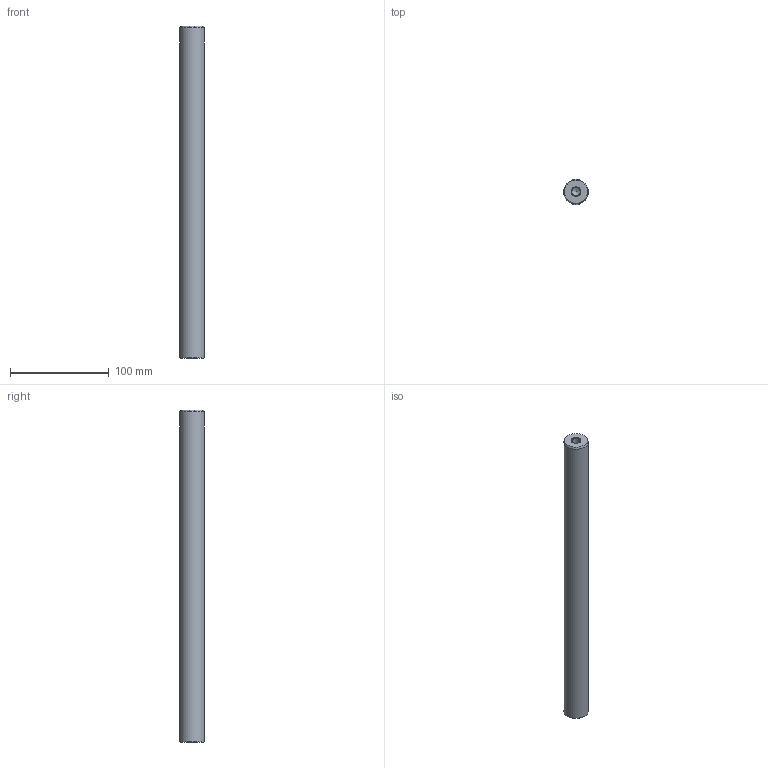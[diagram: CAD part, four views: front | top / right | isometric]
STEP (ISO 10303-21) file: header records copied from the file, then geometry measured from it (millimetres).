
FILE_DESCRIPTION( ( 'STEP AP214' ), '1' );
FILE_NAME( 'U:/Etudes/Top Solid/BIBLIO_Fournisseur/Colonnes UG/Ø25x336.step', '2004-12-22T12:43:33', ( ' ' ), ( ' ' ), 'XStep 1.0', ' ', ' ' );
FILE_SCHEMA( ( 'automotive_design' ) );
Length unit declared in the file: metre
Products named in the file (1): 1
Bounding box: 25 x 25 x 336 mm (x, y, z)
Volume: 161886.3 mm3; surface area: 28663.9 mm2
Topology: 1 solids, 1 shells, 13 faces, 27 edges, 16 vertices
Faces by surface type: cone 6, cylinder 5, plane 2
Full cylindrical faces by diameter (mm): 8.376 x4, 25 x1
Entity records: 382 total; most frequent: DIRECTION 52, CARTESIAN_POINT 40, AXIS2_PLACEMENT_3D 26, EDGE_LOOP 24, ORIENTED_EDGE 24, FACE_OUTER_BOUND 18, VERTEX_POINT 14, STYLED_ITEM 13
